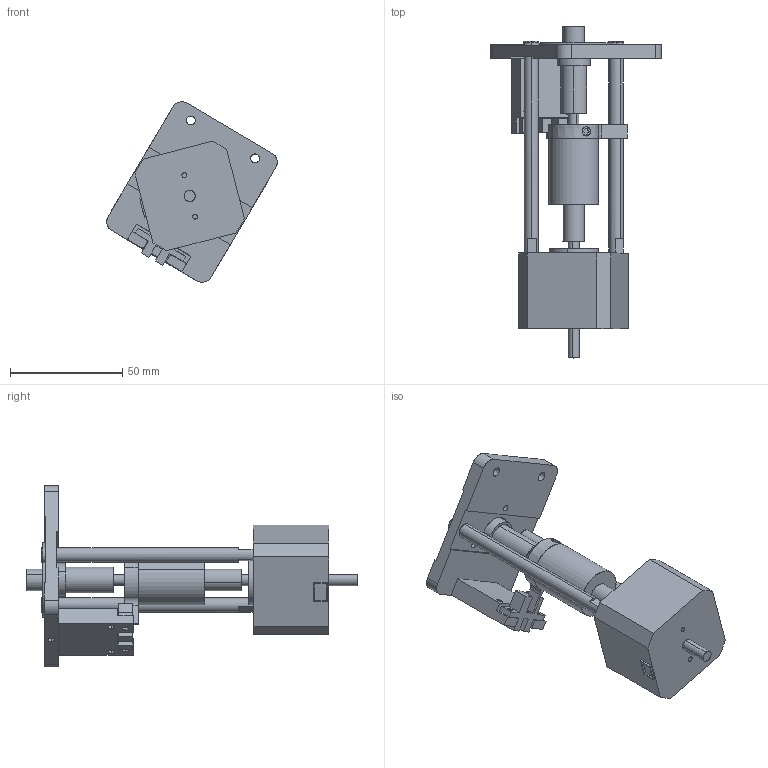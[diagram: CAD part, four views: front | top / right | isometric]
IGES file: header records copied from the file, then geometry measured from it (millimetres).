
Start section: SolidWorks IGES file using analytic representation for surfaces
Global section: file name: R:\ORIG\Model\Assembly Web\MOD91006\MOD91006 RB.IGS; native system: SolidWorks 2014; preprocessor: SolidWorks 2014; author: Slater.P; date: 151117.131621; units: inch
Bounding box: 75.92 x 147.83 x 80.41 mm (x, y, z)
Surface area: 40574.9 mm2 (no closed solid volume)
Topology: 0 solids, 0 shells, 458 faces, 6865 edges, 6863 vertices
Faces by surface type: bspline 253, revolution 205
